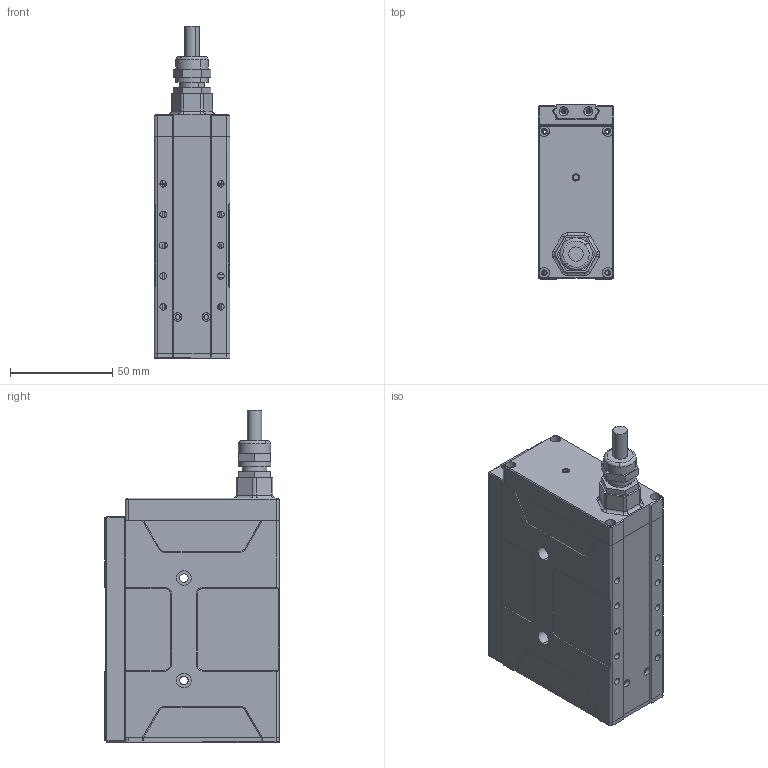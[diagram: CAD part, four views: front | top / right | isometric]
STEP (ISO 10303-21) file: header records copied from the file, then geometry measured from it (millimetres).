
FILE_DESCRIPTION (( 'STEP AP203' ), '1' );
FILE_NAME ('EFG-40-100-V3.0.STEP', '2023-07-14T05:33:47', ( '' ), ( '' ), 'SwSTEP 2.0', 'SolidWorks 2020', '' );
FILE_SCHEMA (( 'CONFIG_CONTROL_DESIGN' ));
Length unit declared in the file: millimetre
Products named in the file (1): EFG-40-100-V3.0
Bounding box: 37 x 85 x 162 mm (x, y, z)
Surface area: 57361.7 mm2 (no closed solid volume)
Topology: 0 solids, 21 shells, 526 faces, 2430 edges, 1914 vertices
Faces by surface type: cylinder 226, plane 222, cone 63, torus 13, bspline 2
Entity records: 26043 total; most frequent: CARTESIAN_POINT 6412, DIRECTION 4087, ORIENTED_EDGE 3526, EDGE_CURVE 2430, VERTEX_POINT 1914, VECTOR 1447, LINE 1447, AXIS2_PLACEMENT_3D 1320
